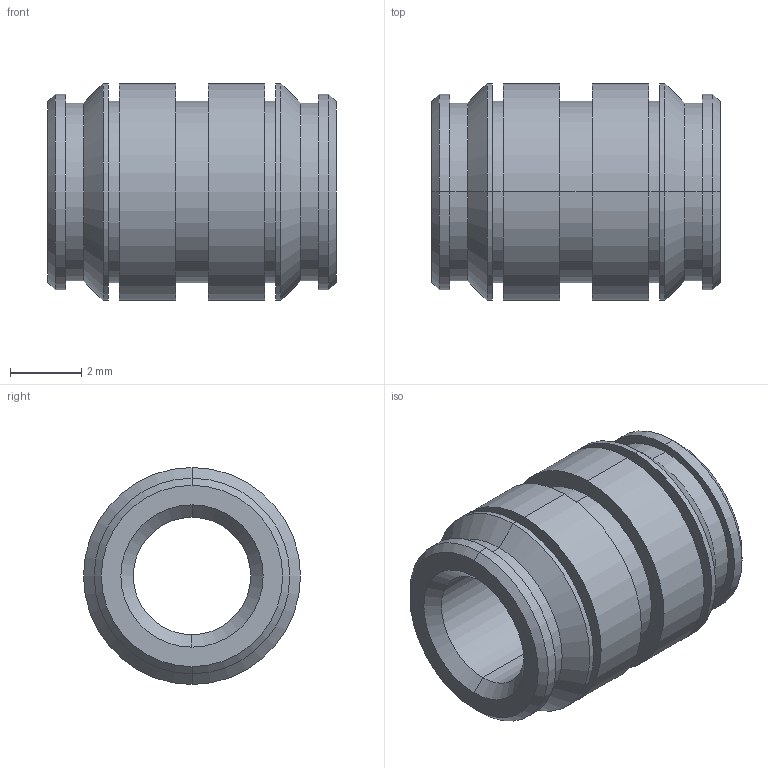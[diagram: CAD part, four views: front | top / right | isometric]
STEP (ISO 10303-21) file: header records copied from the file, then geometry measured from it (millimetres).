
FILE_DESCRIPTION (( 'STEP AP203' ), '1' );
FILE_NAME ('FSUK-DUO-M04-S.STEP', '2021-04-15T09:12:38', ( '' ), ( '' ), 'SwSTEP 2.0', 'SolidWorks 2021', '' );
FILE_SCHEMA (( 'CONFIG_CONTROL_DESIGN' ));
Length unit declared in the file: millimetre
Products named in the file (1): FSUK-DUO-M04-S
Bounding box: 8.1 x 6.1 x 6.1 mm (x, y, z)
Volume: 131.7 mm3; surface area: 318.5 mm2
Topology: 1 solids, 1 shells, 46 faces, 92 edges, 56 vertices
Faces by surface type: cylinder 24, cone 12, plane 10
Entity records: 1285 total; most frequent: DIRECTION 242, CARTESIAN_POINT 195, ORIENTED_EDGE 184, AXIS2_PLACEMENT_3D 103, EDGE_CURVE 92, EDGE_LOOP 56, VERTEX_POINT 56, CIRCLE 56
